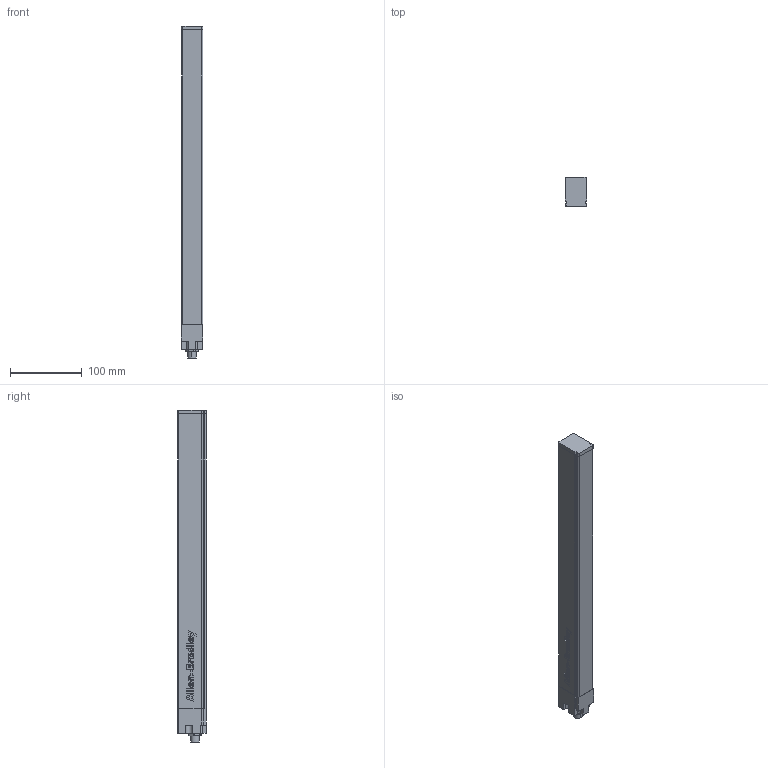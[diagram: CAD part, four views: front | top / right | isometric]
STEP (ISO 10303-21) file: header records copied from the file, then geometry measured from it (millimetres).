
FILE_DESCRIPTION (( 'STEP AP214' ), '1' );
FILE_NAME ('Rockwell Automation-$PARTNUMBER.STEP', '2015-07-08T15:18:50', ( 'Windows User' ), ( '' ), 'SwSTEP 2.0', 'SolidWorks 2015', '' );
FILE_SCHEMA (( 'AUTOMOTIVE_DESIGN' ));
Length unit declared in the file: millimetre
Products named in the file (6): Rockwell Automation-$PARTNUMBER; Rockwell Automation-$PARTNUMBER_Rockwell Automation-445L-P4L0240YD_Guardshield Safe 4 lumberg_Standard; Rockwell Automation-$PARTNUMBER_Rockwell Automation-445L-P4L0240YD_Guardshield Safe 4 ILAS_Standard; Rockwell Automation-$PARTNUMBER_Rockwell Automation-445L-P4L0240YD_Guardshield Safe 4 end cap_Standard; Rockwell Automation-$PARTNUMBER_Rockwell Automation-445L-P4L0240YD_Guardshield Safe 4 connection cap_Standard; Rockwell Automation-$PARTNUMBER_Rockwell Automation-445L-P4L0240YD_Guardshield Safe 4 Profile 30x40_240mm
Assembly tree (5 placements, depth 2):
  Rockwell Automation-$PARTNUMBER
    Rockwell Automation-$PARTNUMBER_Rockwell Automation-445L-P4L0240YD_Guardshield Safe 4 Profile 30x40_240mm
    Rockwell Automation-$PARTNUMBER_Rockwell Automation-445L-P4L0240YD_Guardshield Safe 4 connection cap_Standard
    Rockwell Automation-$PARTNUMBER_Rockwell Automation-445L-P4L0240YD_Guardshield Safe 4 end cap_Standard
    Rockwell Automation-$PARTNUMBER_Rockwell Automation-445L-P4L0240YD_Guardshield Safe 4 ILAS_Standard
    Rockwell Automation-$PARTNUMBER_Rockwell Automation-445L-P4L0240YD_Guardshield Safe 4 lumberg_Standard
Bounding box: 30.6 x 40 x 463.25 mm (x, y, z)
Volume: 199486.8 mm3; surface area: 120182.8 mm2
Topology: 5 solids, 5 shells, 626 faces, 1647 edges, 1098 vertices
Faces by surface type: plane 400, bspline 174, cylinder 52
Entity records: 28713 total; most frequent: CARTESIAN_POINT 13475, ORIENTED_EDGE 3294, DIRECTION 2323, EDGE_CURVE 1647, LINE 1195, VECTOR 1195, VERTEX_POINT 1098, EDGE_LOOP 695
